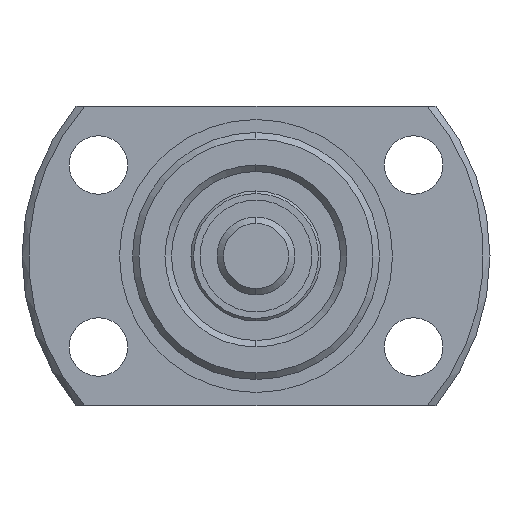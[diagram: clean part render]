
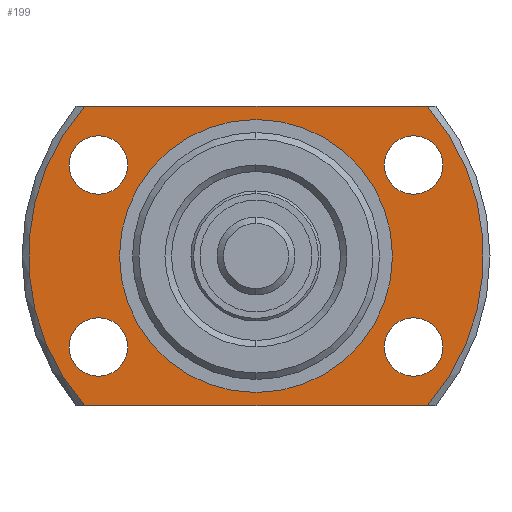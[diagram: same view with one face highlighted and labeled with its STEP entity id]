
A CAD part, left-side view. The second image highlights one B-rep face of the part: STEP entity #199.
In plain terms, the highlighted planar face has unit normal (-1, 0, 0).
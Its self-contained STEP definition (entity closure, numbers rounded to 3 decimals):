
#199 = ADVANCED_FACE ( 'NONE', ( #2643, #2644, #2648, #2656, #2641, #2645 ), #932, .T. ) ;
#299 = AXIS2_PLACEMENT_3D ( 'NONE', #2467, #2466, #2465 ) ;
#300 = AXIS2_PLACEMENT_3D ( 'NONE', #2459, #2457, #2456 ) ;
#303 = AXIS2_PLACEMENT_3D ( 'NONE', #2432, #2431, #2429 ) ;
#305 = AXIS2_PLACEMENT_3D ( 'NONE', #2414, #2413, #2412 ) ;
#311 = AXIS2_PLACEMENT_3D ( 'NONE', #2366, #2365, #2364 ) ;
#335 = AXIS2_PLACEMENT_3D ( 'NONE', #2173, #2172, #2170 ) ;
#336 = AXIS2_PLACEMENT_3D ( 'NONE', #2164, #2162, #2161 ) ;
#337 = AXIS2_PLACEMENT_3D ( 'NONE', #2153, #2152, #2151 ) ;
#338 = AXIS2_PLACEMENT_3D ( 'NONE', #2149, #2148, #2147 ) ;
#339 = AXIS2_PLACEMENT_3D ( 'NONE', #2145, #2144, #2143 ) ;
#340 = AXIS2_PLACEMENT_3D ( 'NONE', #2139, #2138, #2136 ) ;
#341 = AXIS2_PLACEMENT_3D ( 'NONE', #2133, #2131, #2130 ) ;
#626 = CARTESIAN_POINT ( 'NONE',  ( -5., -12.124, -4.75 ) ) ;
#633 = CARTESIAN_POINT ( 'NONE',  ( -5., -12.124, 9.25 ) ) ;
#645 = CARTESIAN_POINT ( 'NONE',  ( -5., 12.124, -9.25 ) ) ;
#650 = CARTESIAN_POINT ( 'NONE',  ( -5., -12.124, 4.75 ) ) ;
#652 = CARTESIAN_POINT ( 'NONE',  ( -5., 0., -10.5 ) ) ;
#664 = CARTESIAN_POINT ( 'NONE',  ( -5., 0., 10.5 ) ) ;
#671 = CARTESIAN_POINT ( 'NONE',  ( -5., -13.191, -11.5 ) ) ;
#674 = CARTESIAN_POINT ( 'NONE',  ( -5., 13.191, -11.5 ) ) ;
#683 = CARTESIAN_POINT ( 'NONE',  ( -5., 13.191, 11.5 ) ) ;
#684 = CARTESIAN_POINT ( 'NONE',  ( -5., -13.191, 11.5 ) ) ;
#696 = CARTESIAN_POINT ( 'NONE',  ( -5., -12.124, -9.25 ) ) ;
#697 = CARTESIAN_POINT ( 'NONE',  ( -5., 12.124, 4.75 ) ) ;
#703 = CARTESIAN_POINT ( 'NONE',  ( -5., 12.124, -4.75 ) ) ;
#706 = CARTESIAN_POINT ( 'NONE',  ( -5., 12.124, 9.25 ) ) ;
#755 = VECTOR ( 'NONE', #2129, 1000. ) ;
#757 = VECTOR ( 'NONE', #2140, 1000. ) ;
#759 = LINE ( 'NONE', #2142, #757 ) ;
#760 = CIRCLE ( 'NONE', #341, 10.5 ) ;
#761 = CIRCLE ( 'NONE', #340, 2.25 ) ;
#762 = LINE ( 'NONE', #2134, #755 ) ;
#763 = CIRCLE ( 'NONE', #339, 2.25 ) ;
#764 = CIRCLE ( 'NONE', #337, 2.25 ) ;
#765 = CIRCLE ( 'NONE', #338, 2.25 ) ;
#767 = CIRCLE ( 'NONE', #335, 17.5 ) ;
#770 = CIRCLE ( 'NONE', #336, 17.5 ) ;
#929 = DIRECTION ( 'NONE',  ( 0., 0., 1. ) ) ;
#930 = CARTESIAN_POINT ( 'NONE',  ( -5., 17.5, 0. ) ) ;
#932 = PLANE ( 'NONE',  #1489 ) ;
#934 = DIRECTION ( 'NONE',  ( -1., 0., 0. ) ) ;
#1043 = CIRCLE ( 'NONE', #311, 10.5 ) ;
#1065 = CIRCLE ( 'NONE', #305, 2.25 ) ;
#1072 = CIRCLE ( 'NONE', #303, 2.25 ) ;
#1079 = CIRCLE ( 'NONE', #299, 2.25 ) ;
#1095 = CIRCLE ( 'NONE', #300, 2.25 ) ;
#1489 = AXIS2_PLACEMENT_3D ( 'NONE', #930, #934, #929 ) ;
#1524 = EDGE_CURVE ( 'NONE', #2924, #2991, #1079, .T. ) ;
#1525 = EDGE_CURVE ( 'NONE', #2937, #2997, #1095, .T. ) ;
#1532 = EDGE_CURVE ( 'NONE', #2936, #2927, #1072, .T. ) ;
#1536 = EDGE_CURVE ( 'NONE', #2979, #2930, #1065, .T. ) ;
#1548 = EDGE_CURVE ( 'NONE', #2962, #2974, #1043, .T. ) ;
#1601 = EDGE_CURVE ( 'NONE', #2946, #2956, #767, .T. ) ;
#1603 = EDGE_CURVE ( 'NONE', #2954, #2947, #770, .T. ) ;
#1606 = EDGE_CURVE ( 'NONE', #2997, #2937, #764, .T. ) ;
#1607 = EDGE_CURVE ( 'NONE', #2991, #2924, #765, .T. ) ;
#1608 = EDGE_CURVE ( 'NONE', #2927, #2936, #763, .T. ) ;
#1609 = EDGE_CURVE ( 'NONE', #2930, #2979, #761, .T. ) ;
#1610 = EDGE_CURVE ( 'NONE', #2974, #2962, #760, .T. ) ;
#1611 = EDGE_CURVE ( 'NONE', #2946, #2947, #759, .T. ) ;
#1612 = EDGE_CURVE ( 'NONE', #2954, #2956, #762, .T. ) ;
#1680 = ORIENTED_EDGE ( 'NONE', *, *, #1612, .T. ) ;
#1681 = ORIENTED_EDGE ( 'NONE', *, *, #1603, .F. ) ;
#1682 = ORIENTED_EDGE ( 'NONE', *, *, #1611, .T. ) ;
#1683 = ORIENTED_EDGE ( 'NONE', *, *, #1601, .F. ) ;
#1684 = ORIENTED_EDGE ( 'NONE', *, *, #1548, .T. ) ;
#1685 = ORIENTED_EDGE ( 'NONE', *, *, #1610, .T. ) ;
#1686 = ORIENTED_EDGE ( 'NONE', *, *, #1609, .F. ) ;
#1687 = ORIENTED_EDGE ( 'NONE', *, *, #1536, .F. ) ;
#1688 = ORIENTED_EDGE ( 'NONE', *, *, #1608, .F. ) ;
#1689 = ORIENTED_EDGE ( 'NONE', *, *, #1532, .F. ) ;
#1690 = ORIENTED_EDGE ( 'NONE', *, *, #1607, .F. ) ;
#1691 = ORIENTED_EDGE ( 'NONE', *, *, #1524, .F. ) ;
#1692 = ORIENTED_EDGE ( 'NONE', *, *, #1606, .F. ) ;
#1693 = ORIENTED_EDGE ( 'NONE', *, *, #1525, .F. ) ;
#2129 = DIRECTION ( 'NONE',  ( 0., -1., 0. ) ) ;
#2130 = DIRECTION ( 'NONE',  ( 0., 0., -1. ) ) ;
#2131 = DIRECTION ( 'NONE',  ( 1., 0., 0. ) ) ;
#2133 = CARTESIAN_POINT ( 'NONE',  ( -5., 0., 0. ) ) ;
#2134 = CARTESIAN_POINT ( 'NONE',  ( -5., 17.5, -11.5 ) ) ;
#2136 = DIRECTION ( 'NONE',  ( 0., 0., 1. ) ) ;
#2138 = DIRECTION ( 'NONE',  ( -1., 0., 0. ) ) ;
#2139 = CARTESIAN_POINT ( 'NONE',  ( -5., 12.124, -7. ) ) ;
#2140 = DIRECTION ( 'NONE',  ( 0., 1., 0. ) ) ;
#2142 = CARTESIAN_POINT ( 'NONE',  ( -5., 17.5, 11.5 ) ) ;
#2143 = DIRECTION ( 'NONE',  ( 0., 0., 1. ) ) ;
#2144 = DIRECTION ( 'NONE',  ( -1., 0., 0. ) ) ;
#2145 = CARTESIAN_POINT ( 'NONE',  ( -5., 12.124, 7. ) ) ;
#2147 = DIRECTION ( 'NONE',  ( 0., 0., 1. ) ) ;
#2148 = DIRECTION ( 'NONE',  ( -1., 0., 0. ) ) ;
#2149 = CARTESIAN_POINT ( 'NONE',  ( -5., -12.124, 7. ) ) ;
#2151 = DIRECTION ( 'NONE',  ( 0., 0., 1. ) ) ;
#2152 = DIRECTION ( 'NONE',  ( -1., 0., 0. ) ) ;
#2153 = CARTESIAN_POINT ( 'NONE',  ( -5., -12.124, -7. ) ) ;
#2161 = DIRECTION ( 'NONE',  ( 0., 0., -1. ) ) ;
#2162 = DIRECTION ( 'NONE',  ( 1., 0., 0. ) ) ;
#2164 = CARTESIAN_POINT ( 'NONE',  ( -5., 0., 0. ) ) ;
#2170 = DIRECTION ( 'NONE',  ( 0., 0., -1. ) ) ;
#2172 = DIRECTION ( 'NONE',  ( 1., 0., 0. ) ) ;
#2173 = CARTESIAN_POINT ( 'NONE',  ( -5., 0., 0. ) ) ;
#2364 = DIRECTION ( 'NONE',  ( 0., 0., -1. ) ) ;
#2365 = DIRECTION ( 'NONE',  ( 1., 0., 0. ) ) ;
#2366 = CARTESIAN_POINT ( 'NONE',  ( -5., 0., 0. ) ) ;
#2412 = DIRECTION ( 'NONE',  ( 0., 0., 1. ) ) ;
#2413 = DIRECTION ( 'NONE',  ( -1., 0., 0. ) ) ;
#2414 = CARTESIAN_POINT ( 'NONE',  ( -5., 12.124, -7. ) ) ;
#2429 = DIRECTION ( 'NONE',  ( 0., 0., 1. ) ) ;
#2431 = DIRECTION ( 'NONE',  ( -1., 0., 0. ) ) ;
#2432 = CARTESIAN_POINT ( 'NONE',  ( -5., 12.124, 7. ) ) ;
#2456 = DIRECTION ( 'NONE',  ( 0., 0., 1. ) ) ;
#2457 = DIRECTION ( 'NONE',  ( -1., 0., 0. ) ) ;
#2459 = CARTESIAN_POINT ( 'NONE',  ( -5., -12.124, -7. ) ) ;
#2465 = DIRECTION ( 'NONE',  ( 0., 0., 1. ) ) ;
#2466 = DIRECTION ( 'NONE',  ( -1., 0., 0. ) ) ;
#2467 = CARTESIAN_POINT ( 'NONE',  ( -5., -12.124, 7. ) ) ;
#2641 = FACE_BOUND ( 'NONE', #2834, .T. ) ;
#2643 = FACE_BOUND ( 'NONE', #2796, .T. ) ;
#2644 = FACE_BOUND ( 'NONE', #2804, .T. ) ;
#2645 = FACE_OUTER_BOUND ( 'NONE', #2849, .T. ) ;
#2648 = FACE_BOUND ( 'NONE', #2828, .T. ) ;
#2656 = FACE_BOUND ( 'NONE', #2842, .T. ) ;
#2796 = EDGE_LOOP ( 'NONE', ( #1693, #1692 ) ) ;
#2804 = EDGE_LOOP ( 'NONE', ( #1691, #1690 ) ) ;
#2828 = EDGE_LOOP ( 'NONE', ( #1689, #1688 ) ) ;
#2834 = EDGE_LOOP ( 'NONE', ( #1685, #1684 ) ) ;
#2842 = EDGE_LOOP ( 'NONE', ( #1687, #1686 ) ) ;
#2849 = EDGE_LOOP ( 'NONE', ( #1683, #1682, #1681, #1680 ) ) ;
#2924 = VERTEX_POINT ( 'NONE', #650 ) ;
#2927 = VERTEX_POINT ( 'NONE', #706 ) ;
#2930 = VERTEX_POINT ( 'NONE', #703 ) ;
#2936 = VERTEX_POINT ( 'NONE', #697 ) ;
#2937 = VERTEX_POINT ( 'NONE', #696 ) ;
#2946 = VERTEX_POINT ( 'NONE', #684 ) ;
#2947 = VERTEX_POINT ( 'NONE', #683 ) ;
#2954 = VERTEX_POINT ( 'NONE', #674 ) ;
#2956 = VERTEX_POINT ( 'NONE', #671 ) ;
#2962 = VERTEX_POINT ( 'NONE', #664 ) ;
#2974 = VERTEX_POINT ( 'NONE', #652 ) ;
#2979 = VERTEX_POINT ( 'NONE', #645 ) ;
#2991 = VERTEX_POINT ( 'NONE', #633 ) ;
#2997 = VERTEX_POINT ( 'NONE', #626 ) ;
